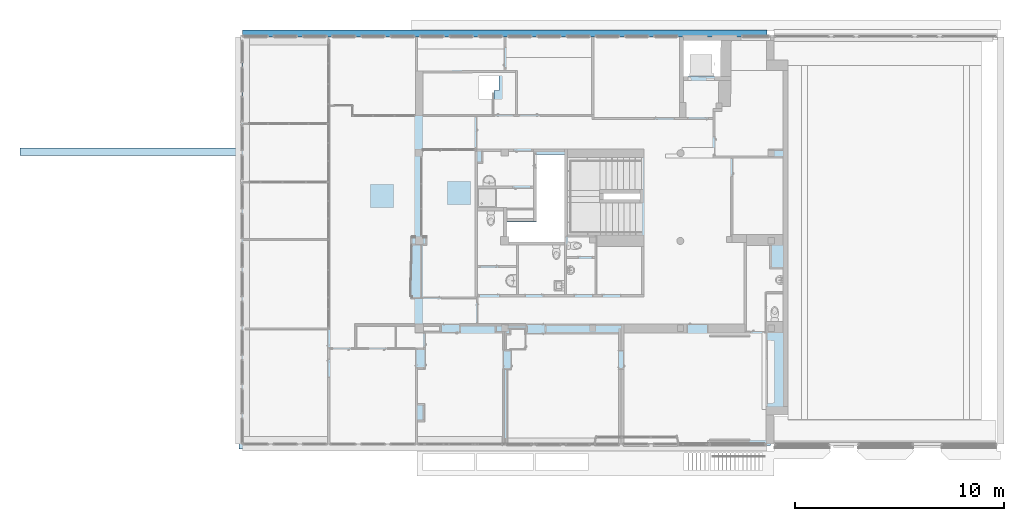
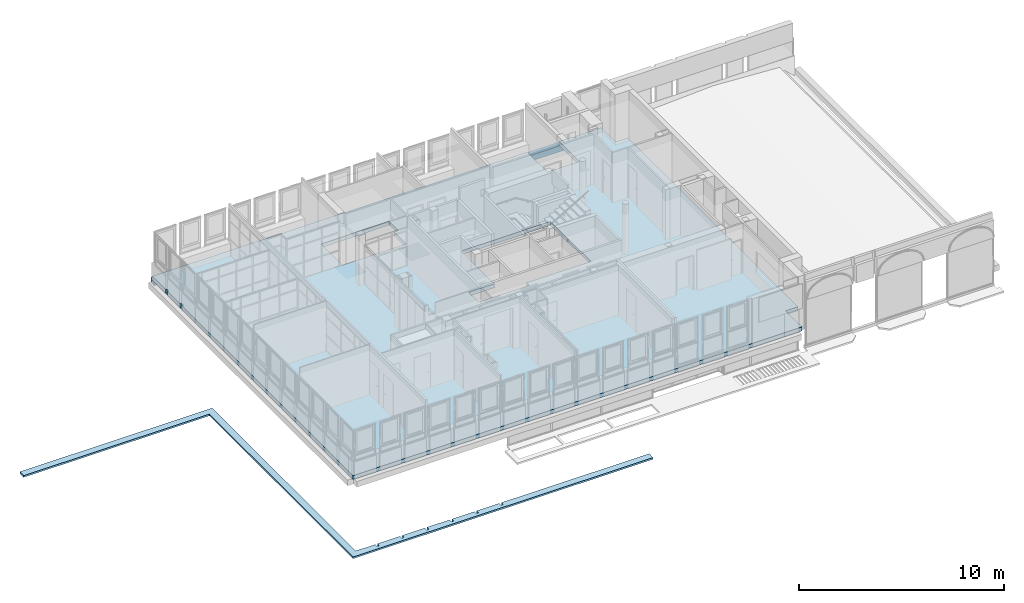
# One storey, part 52 of 97: 2 slabs, 1 beam.
"""IFC4 building model written with IfcOpenShell, lengths in metres."""

from ifc_helpers import new_model, entity, si_unit, converted_unit, derived_unit, direction, frame, origin, place, context, subcontext, project, spatial, polygons, source, transform, mapped, material, layer, layer_set, type_object, type_shapes, element, save


model = new_model("IFC4")

# Units and contexts
model_context = context("Model", 3, precision=1e-05, world=origin(), true_north=direction((6.12303176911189e-17, 1.0)))
body_context = subcontext(model_context, "Body", "Model", "MODEL_VIEW")
ifc_project = project(units=[si_unit("LENGTHUNIT", "METRE"), si_unit("AREAUNIT", "SQUARE_METRE"), si_unit("VOLUMEUNIT", "CUBIC_METRE"), converted_unit("PLANEANGLEUNIT", "DEGREE", entity("IfcRatioMeasure", 0.0174532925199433), si_unit("PLANEANGLEUNIT", "RADIAN"), dimensions=[0, 0, 0, 0, 0, 0, 0]), si_unit("MASSUNIT", "GRAM", prefix="KILO"), derived_unit("MASSDENSITYUNIT", [(si_unit("MASSUNIT", "GRAM", prefix="KILO"), 1), (si_unit("LENGTHUNIT", "METRE"), -3)]), derived_unit("MOMENTOFINERTIAUNIT", [(si_unit("LENGTHUNIT", "METRE"), 4)]), si_unit("TIMEUNIT", "SECOND"), si_unit("FREQUENCYUNIT", "HERTZ"), si_unit("THERMODYNAMICTEMPERATUREUNIT", "DEGREE_CELSIUS"), derived_unit("THERMALTRANSMITTANCEUNIT", [(si_unit("MASSUNIT", "GRAM", prefix="KILO"), 1), (si_unit("THERMODYNAMICTEMPERATUREUNIT", "KELVIN"), -1), (si_unit("TIMEUNIT", "SECOND"), -3)]), derived_unit("VOLUMETRICFLOWRATEUNIT", [(si_unit("LENGTHUNIT", "METRE"), 3), (si_unit("TIMEUNIT", "SECOND"), -1)]), si_unit("ELECTRICCURRENTUNIT", "AMPERE"), si_unit("ELECTRICVOLTAGEUNIT", "VOLT"), si_unit("POWERUNIT", "WATT"), si_unit("FORCEUNIT", "NEWTON", prefix="KILO"), si_unit("ILLUMINANCEUNIT", "LUX"), si_unit("LUMINOUSFLUXUNIT", "LUMEN"), si_unit("LUMINOUSINTENSITYUNIT", "CANDELA"), derived_unit("USERDEFINED", [(si_unit("MASSUNIT", "GRAM", prefix="KILO"), -1), (si_unit("LENGTHUNIT", "METRE"), -2), (si_unit("TIMEUNIT", "SECOND"), 3), (si_unit("LUMINOUSFLUXUNIT", "LUMEN"), 1)]), derived_unit("LINEARVELOCITYUNIT", [(si_unit("LENGTHUNIT", "METRE"), 1), (si_unit("TIMEUNIT", "SECOND"), -1)]), si_unit("PRESSUREUNIT", "PASCAL"), derived_unit("USERDEFINED", [(si_unit("LENGTHUNIT", "METRE"), -2), (si_unit("MASSUNIT", "GRAM", prefix="KILO"), 1), (si_unit("TIMEUNIT", "SECOND"), -2)]), derived_unit("LINEARFORCEUNIT", [(si_unit("MASSUNIT", "GRAM", prefix="KILO"), 1), (si_unit("LENGTHUNIT", "METRE"), 1), (si_unit("TIMEUNIT", "SECOND"), -2), (si_unit("LENGTHUNIT", "METRE"), -1)]), derived_unit("PLANARFORCEUNIT", [(si_unit("MASSUNIT", "GRAM", prefix="KILO"), 1), (si_unit("LENGTHUNIT", "METRE"), 1), (si_unit("TIMEUNIT", "SECOND"), -2), (si_unit("LENGTHUNIT", "METRE"), -2)])], contexts=[model_context])

# Site, building, storey
site_placement = place(None, origin())
site = spatial("IfcSite", under=ifc_project, at=site_placement, Name="Default", CompositionType="ELEMENT")
building_placement = place(site_placement, origin())
building = spatial("IfcBuilding", under=site, at=building_placement, Name="HOTEL CONSULAIRE BOULOGNE SUR MER", CompositionType="ELEMENT")
storey_placement = place(building_placement, frame((0.0, 0.0, 3.62152697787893)))
storey = spatial("IfcBuildingStorey", under=building, at=storey_placement, Name="Niveau 1", CompositionType="ELEMENT", Elevation=3.62152697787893)

# Beam
ifc_material_1 = material(Name="Béton - Béton coulé sur place", Category="Béton")
beam_type = type_object("IfcBeamType", Name="Poutre rectangulaire - Béton:320x340", PredefinedType="BEAM", material=ifc_material_1)
shared_shape = source(origin(), body_context, "Body", "Tessellation", [
    polygons([(2.16573425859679e-15, 2.16573425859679e-14, 5.41433564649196e-16), (4.09435601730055, 1.73258740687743e-14, 5.41433564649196e-16), (8.29, 1.51601398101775e-14, 5.41433564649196e-16), (8.29, 1.51601398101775e-14, 0.000400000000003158), (8.63, 1.51601398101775e-14, 0.000400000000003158), (8.63, 1.51601398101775e-14, 5.41433564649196e-16), (12.283, 1.29944055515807e-14, 5.41433564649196e-16), (12.283, 1.29944055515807e-14, 0.000400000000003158), (12.623, 1.08286712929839e-14, 0.000400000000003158), (12.623, 1.08286712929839e-14, 5.41433564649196e-16), (20.9229609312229, 4.33146851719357e-15, 5.41433564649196e-16), (25.1006189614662, 2.16573425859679e-15, 5.41433564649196e-16), (25.1006189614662, 2.16573425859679e-15, 0.335400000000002), (22.9001669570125, 4.33146851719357e-15, 0.335400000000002), (22.9001669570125, 4.33146851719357e-15, 0.340000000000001), (22.4715590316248, 4.33146851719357e-15, 0.340000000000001), (22.2715590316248, 4.33146851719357e-15, 0.340000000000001), (21.1029609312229, 4.33146851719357e-15, 0.340000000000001), (21.1029609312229, 4.33146851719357e-15, 0.335400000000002), (21.0715590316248, 4.33146851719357e-15, 0.335400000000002), (20.9229609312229, 4.33146851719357e-15, 0.335400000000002), (4.09435601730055, 1.73258740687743e-14, 0.335400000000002), (-2.16573425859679e-15, 2.16573425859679e-14, 0.335400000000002), (2.16573425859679e-15, 0.32000000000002, 5.41433564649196e-16), (8.29, 0.320000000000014, 5.41433564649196e-16), (2.16573425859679e-15, 0.32000000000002, 0.340000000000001), (25.1006189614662, 0.320000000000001, 0.340000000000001), (25.1006189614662, 0.320000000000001, 1.08286712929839e-15), (12.623, 0.32000000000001, 1.08286712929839e-15), (12.623, 0.32000000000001, 0.000400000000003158), (12.283, 0.320000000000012, 0.000400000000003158), (12.283, 0.320000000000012, 1.08286712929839e-15), (8.63, 0.320000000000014, 1.08286712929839e-15), (8.63, 0.320000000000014, 0.000400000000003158), (8.29, 0.320000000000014, 0.000400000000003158), (-2.16573425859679e-15, 0.0730000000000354, 0.340000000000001), (0.350880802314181, 0.0730000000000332, 0.340000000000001), (1.25301611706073, 0.0730000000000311, 0.340000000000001), (1.45210526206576, 0.0730000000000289, 0.340000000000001), (2.65301611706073, 0.0730000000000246, 0.340000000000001), (2.85210526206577, 0.0730000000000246, 0.340000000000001), (4.09435601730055, 0.0730000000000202, 0.340000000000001), (6.85301611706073, 0.0730000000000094, 0.340000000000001), (7.05210526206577, 0.0730000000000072, 0.340000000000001), (8.27466291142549, 0.0730000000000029, 0.340000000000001), (8.47375205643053, 0.0730000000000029, 0.340000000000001), (9.67466291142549, 0.0729999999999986, 0.340000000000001), (9.87375205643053, 0.0729999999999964, 0.340000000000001), (11.0746629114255, 0.0729999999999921, 0.340000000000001), (11.2737520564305, 0.0729999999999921, 0.340000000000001), (12.4746629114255, 0.0729999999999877, 0.340000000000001), (12.6737520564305, 0.0729999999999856, 0.340000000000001), (13.8720144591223, 0.0729999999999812, 0.340000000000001), (14.0711036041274, 0.0729999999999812, 0.340000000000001), (15.2720144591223, 0.0729999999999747, 0.340000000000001), (15.4711036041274, 0.0729999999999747, 0.340000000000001), (16.6720144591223, 0.0729999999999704, 0.340000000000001), (16.8711036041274, 0.0729999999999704, 0.340000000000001), (18.0720144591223, 0.0729999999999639, 0.340000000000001), (18.2711036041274, 0.0729999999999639, 0.340000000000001), (19.4720144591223, 0.0729999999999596, 0.340000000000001), (19.6711036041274, 0.0729999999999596, 0.340000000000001), (20.8720144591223, 0.0729999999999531, 0.340000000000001), (21.0715590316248, 0.0729999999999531, 0.340000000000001), (21.1029609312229, 0.0729999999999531, 0.340000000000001), (22.9008694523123, 0.0729999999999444, 0.340000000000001), (23.6720144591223, 0.0729999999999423, 0.340000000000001), (23.8711036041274, 0.0729999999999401, 0.340000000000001), (25.1006189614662, 0.0729999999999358, 0.340000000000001), (25.1006189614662, 0.084308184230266, 0.340000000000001), (0.0, 0.0730000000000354, 0.335400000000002), (25.1006189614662, 0.0729999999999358, 0.335400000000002), (22.9008694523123, 0.0729999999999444, 0.335400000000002), (21.1029609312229, 0.0729999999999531, 0.335400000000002)], [[[14, 15, 16, 17, 18, 19, 20, 21, 22, 23, 1, 2, 3, 4, 5, 6, 7, 8, 9, 10, 11, 12, 13]], [[48, 47, 46, 45, 44, 43, 42, 41, 40, 39, 38, 37, 36, 71, 74, 65, 64, 63, 62, 61, 60, 59, 58, 57, 56, 55, 54, 53, 52, 51, 50, 49]], [[68, 67, 66, 73, 72, 69]], [[24, 25, 3, 2, 1]], [[29, 28, 12, 11, 10]], [[33, 32, 7, 6]], [[35, 34, 5, 4]], [[8, 31, 30, 9]], [[30, 31, 32, 33, 34, 35, 25, 24, 26, 27, 28, 29]], [[55, 56, 57, 58, 59, 60, 61, 62, 63, 64, 65, 18, 17, 16, 15, 66, 67, 68, 69, 70, 27, 26, 36, 37, 38, 39, 40, 41, 42, 43, 44, 45, 46, 47, 48, 49, 50, 51, 52, 53, 54]], [[13, 72, 73, 14]], [[22, 21, 20, 19, 74, 71, 23]], [[36, 26, 24, 1, 23, 71]], [[6, 5, 34, 33]], [[29, 10, 9, 30]], [[65, 74, 19, 18]], [[3, 25, 35, 4]], [[7, 32, 31, 8]], [[72, 13, 12, 28, 27, 70, 69]], [[66, 15, 14, 73]]], closed=True),
])
type_shapes(beam_type, [shared_shape])
beam_placement = place(storey_placement, frame((-13.7939806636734, -10.0746323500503, -0.570400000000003)))
element("IfcBeam", 1, at=beam_placement, inside=storey, type_object=beam_type, material=ifc_material_1, Name="Poutre rectangulaire - Béton:320x340", ObjectType="Poutre rectangulaire - Béton:320x340", PredefinedType="BEAM", context=body_context, shape_type="MappedRepresentation", body=[
    mapped(shared_shape, transform((0.0, 0.0, 0.0), scale=1.0)),
])

# Slabs
ifc_material_2 = material(Name="moquette bleu")
ifc_layer_1 = layer(ifc_material_2, 0.015, Name="moquette bleu")
ifc_material_3 = material(Name="Carrelage beige")
ifc_layer_2 = layer(ifc_material_3, 0.02, Name="Carrelage beige")
ifc_layer_3 = layer(ifc_material_1, 0.2, Name="Béton - Béton coulé sur place", Category="Béton")
ifc_layer_set = layer_set([ifc_layer_1, ifc_layer_2, ifc_layer_3], Name="Sol:Dalle béton 200 finition carrelage 20 mm + moquette 15")
slab_type_1 = type_object("IfcSlabType", Name="Sol:Dalle béton 200 finition carrelage 20 mm + moquette 15", PredefinedType="FLOOR", material=ifc_layer_set)
slab_1_placement = place(storey_placement, origin())
element("IfcSlab", 2, at=slab_1_placement, inside=storey, type_object=slab_type_1, material=ifc_layer_set, Name="Sol:Dalle béton 200 finition carrelage 20 mm + moquette 15", ObjectType="Sol:Dalle béton 200 finition carrelage 20 mm + moquette 15", PredefinedType="FLOOR", context=body_context, shape_type="Tessellation", body=[
    polygons([(11.4766382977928, -10.0016323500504, -0.235), (11.4766382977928, -10.0846323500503, -0.235), (11.4766382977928, -10.24032416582, -0.235), (11.4766382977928, -11.1735010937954, -0.235), (11.4766382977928, -11.4091940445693, -0.235), (12.1764778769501, -11.4091940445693, -0.235), (12.1764778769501, -11.6735010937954, -0.235), (12.1764778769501, -27.7610483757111, -0.235), (12.1764778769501, -28.0483514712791, -0.235), (11.4766382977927, -28.0483514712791, -0.235), (11.4766382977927, -28.1610483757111, -0.235), (11.4766382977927, -29.5540671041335, -0.235), (11.4766382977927, -29.6351047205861, -0.235), (-13.7293496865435, -29.6351047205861, -0.235), (-13.8039806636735, -29.6351047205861, -0.235), (-13.8650998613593, -29.6351047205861, -0.235), (-13.8650998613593, -29.5540671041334, -0.235), (-13.8650998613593, -29.2001047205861, -0.235), (-13.8650998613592, -10.4553241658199, -0.235), (-13.8650998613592, -10.0846323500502, -0.235), (-13.8650998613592, -10.0746323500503, -0.235), (-13.8650998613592, -10.0016323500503, -0.235), (-13.7939806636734, -10.0016323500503, -0.235), (7.30898026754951, -10.0016323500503, -0.235), (7.30898026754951, -10.0746323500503, -0.235), (7.30898026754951, -10.24032416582, -0.235), (7.3089802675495, -11.9707913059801, -0.235), (9.08793913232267, -11.9707913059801, -0.235), (9.10459180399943, -10.24032416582, -0.235), (9.10618629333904, -10.0746323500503, -0.235), (9.10688878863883, -10.0016323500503, -0.235), (11.3066382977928, -10.0016323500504, -0.235), (5.33673984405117, -17.3888875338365, -0.235), (5.31372773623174, -17.3888875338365, -0.235), (5.31372773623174, -15.8552420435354, -0.235), (5.31372773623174, -15.7002420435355, -0.235), (1.75747131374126, -15.7002420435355, -0.235), (1.45747131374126, -15.7002420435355, -0.235), (0.302268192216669, -15.7002420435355, -0.235), (0.291635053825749, -15.7002420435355, -0.235), (0.291635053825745, -17.8875602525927, -0.235), (0.291635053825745, -18.0025602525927, -0.235), (0.291635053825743, -18.9327095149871, -0.235), (0.172268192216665, -18.9327095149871, -0.235), (-1.15234448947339, -18.9327095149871, -0.235), (-1.15234448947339, -19.6199143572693, -0.235), (-1.15234448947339, -19.8798339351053, -0.235), (1.45747131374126, -19.8798339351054, -0.235), (1.67747131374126, -19.8798339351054, -0.235), (1.69247131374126, -19.8798339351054, -0.235), (1.69247131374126, -19.6349143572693, -0.235), (1.75747131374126, -19.6349143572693, -0.235), (5.05288639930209, -19.6349143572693, -0.235), (5.33673984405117, -19.6349143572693, -0.235), (5.33673984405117, -19.5719143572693, -0.235), (5.36673984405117, -19.5719143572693, -0.235), (5.36673984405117, -18.0248875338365, -0.235), (5.33673984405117, -18.0248875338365, -0.235), (-5.33477317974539, -13.8309141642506, -0.235), (-5.1597731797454, -13.8309141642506, -0.235), (-1.74279961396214, -13.8309141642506, -0.235), (-1.74279961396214, -13.7909141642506, -0.235), (-1.74279961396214, -12.6319533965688, -0.235), (-1.47384073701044, -12.6296783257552, -0.235), (-1.47384073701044, -11.7784295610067, -0.235), (-1.50384073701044, -11.7786825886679, -0.235), (-1.50384073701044, -11.7286808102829, -0.235), (-5.15977317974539, -11.7595158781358, -0.235), (-5.33477317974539, -11.7609918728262, -0.235), (11.4766382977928, -11.4091940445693, 0.0), (11.4766382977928, -11.1735010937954, 0.0), (11.4766382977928, -10.24032416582, 0.0), (11.4766382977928, -10.0846323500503, 0.0), (11.4766382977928, -10.0016323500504, 0.0), (11.3066382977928, -10.0016323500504, 0.0), (10.077122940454, -10.0016323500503, 0.0), (10.0775783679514, -10.0046685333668, 0.0), (10.0775783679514, -10.0856685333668, 0.0), (9.87757836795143, -10.0856685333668, 0.0), (9.87757836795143, -10.0046685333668, 0.0), (9.8780337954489, -10.0016323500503, 0.0), (9.10688878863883, -10.0016323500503, 0.0), (9.10459180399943, -10.24032416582, 0.0), (9.08793913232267, -11.9707913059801, 0.0), (8.79498706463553, -11.9707913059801, 0.0), (7.53998026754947, -11.9707913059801, 0.0), (7.3089802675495, -11.9707913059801, 0.0), (7.30898026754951, -10.24032416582, 0.0), (7.30898026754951, -10.0856685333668, 0.0), (7.30898026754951, -10.0016323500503, 0.0), (7.27757836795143, -10.0016323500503, 0.0), (7.0780337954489, -10.0016323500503, 0.0), (5.87712294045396, -10.0016323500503, 0.0), (5.67803379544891, -10.0016323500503, 0.0), (4.47712294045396, -10.0016323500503, 0.0), (4.27803379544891, -10.0016323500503, 0.0), (3.07712294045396, -10.0016323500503, 0.0), (2.87803379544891, -10.0016323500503, 0.0), (1.67712294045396, -10.0016323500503, 0.0), (1.47803379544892, -10.0016323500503, 0.0), (0.277122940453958, -10.0016323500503, 0.0), (0.0780337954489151, -10.0016323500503, 0.0), (-1.12022860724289, -10.0016323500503, 0.0), (-1.31931775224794, -10.0016323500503, 0.0), (-2.52022860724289, -10.0016323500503, 0.0), (-2.71931775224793, -10.0016323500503, 0.0), (-3.92022860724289, -10.0016323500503, 0.0), (-4.11931775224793, -10.0016323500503, 0.0), (-5.32022860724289, -10.0016323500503, 0.0), (-5.51931775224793, -10.0016323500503, 0.0), (-6.74187540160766, -10.0016323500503, 0.0), (-6.94096454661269, -10.0016323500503, 0.0), (-9.69962464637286, -10.0016323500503, 0.0), (-10.9418754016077, -10.0016323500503, 0.0), (-11.1409645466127, -10.0016323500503, 0.0), (-12.3418754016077, -10.0016323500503, 0.0), (-12.5409645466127, -10.0016323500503, 0.0), (-13.4430998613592, -10.0016323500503, 0.0), (-13.8650998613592, -10.0016323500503, 0.0), (-13.8650998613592, -11.3114499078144, 0.0), (-13.7881025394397, -11.3114499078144, 0.0), (-13.7881025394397, -11.5114499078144, 0.0), (-13.8650998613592, -11.5114499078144, 0.0), (-13.8650998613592, -12.7114499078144, 0.0), (-13.7881025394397, -12.7114499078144, 0.0), (-13.7881025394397, -12.9114499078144, 0.0), (-13.8650998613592, -12.9114499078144, 0.0), (-13.8650998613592, -14.1974499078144, 0.0), (-13.8650998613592, -14.2474499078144, 0.0), (-13.8650998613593, -15.5114499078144, 0.0), (-13.8650998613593, -15.7114499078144, 0.0), (-13.8650998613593, -17.0222596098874, 0.0), (-13.8650998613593, -17.0518458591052, 0.0), (-13.8650998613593, -18.3114499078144, 0.0), (-13.8650998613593, -18.5114499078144, 0.0), (-13.8650998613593, -19.7114499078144, 0.0), (-13.8650998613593, -19.9114499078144, 0.0), (-13.8650998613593, -21.1114499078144, 0.0), (-13.8650998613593, -21.3114499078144, 0.0), (-13.8650998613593, -22.5114499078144, 0.0), (-13.8650998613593, -22.7114499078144, 0.0), (-13.8650998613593, -23.9114499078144, 0.0), (-13.8650998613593, -24.1114499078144, 0.0), (-13.8650998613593, -25.3114499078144, 0.0), (-13.8650998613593, -25.5114499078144, 0.0), (-13.8650998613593, -26.7114499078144, 0.0), (-13.8650998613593, -26.9114499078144, 0.0), (-13.8650998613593, -28.1114499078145, 0.0), (-13.8650998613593, -28.3114499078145, 0.0), (-13.8650998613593, -29.2001047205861, 0.0), (-13.8650998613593, -29.5540671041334, 0.0), (-13.8650998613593, -29.6351047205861, 0.0), (-13.7939806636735, -29.6351047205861, 0.0), (-12.5414199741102, -29.6351047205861, 0.0), (-12.3414199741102, -29.6351047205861, 0.0), (-11.1414199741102, -29.6351047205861, 0.0), (-10.9414199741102, -29.6351047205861, 0.0), (-9.7414199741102, -29.6351047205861, 0.0), (-9.5414199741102, -29.6351047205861, 0.0), (-8.3414199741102, -29.6351047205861, 0.0), (-8.1414199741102, -29.6351047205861, 0.0), (-6.9414199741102, -29.6351047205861, 0.0), (-6.74141997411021, -29.6351047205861, 0.0), (-5.54141997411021, -29.6351047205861, 0.0), (-5.34141997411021, -29.6351047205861, 0.0), (-4.14141997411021, -29.6351047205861, 0.0), (-3.94141997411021, -29.6351047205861, 0.0), (-2.74141997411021, -29.6351047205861, 0.0), (-2.54141997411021, -29.6351047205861, 0.0), (-1.37110579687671, -29.6351047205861, 0.0), (-1.3414199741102, -29.6351047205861, 0.0), (-1.14141997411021, -29.6351047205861, 0.0), (0.0585800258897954, -29.6351047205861, 0.0), (0.258580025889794, -29.6351047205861, 0.0), (1.45858002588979, -29.6351047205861, 0.0), (1.65858002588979, -29.6351047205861, 0.0), (2.8585800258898, -29.6351047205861, 0.0), (3.05858002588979, -29.6351047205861, 0.0), (4.25858002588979, -29.6351047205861, 0.0), (4.4585746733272, -29.6351047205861, 0.0), (5.65858002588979, -29.6351047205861, 0.0), (5.85858002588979, -29.6351047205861, 0.0), (7.05858002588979, -29.6351047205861, 0.0), (7.25858002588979, -29.6351047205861, 0.0), (8.45858002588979, -29.6351047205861, 0.0), (8.65858002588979, -29.6351047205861, 0.0), (10.4846382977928, -29.6351047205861, 0.0), (11.3066382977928, -29.6351047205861, 0.0), (11.4766382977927, -29.6351047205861, 0.0), (11.4766382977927, -29.5540671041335, 0.0), (11.4766382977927, -28.1610483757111, 0.0), (11.4766382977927, -28.0483514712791, 0.0), (12.1764778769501, -28.0483514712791, 0.0), (12.1764778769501, -27.7610483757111, 0.0), (12.1764778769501, -11.6735010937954, 0.0), (12.1764778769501, -11.4091940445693, 0.0), (-1.74279961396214, -13.8309141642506, 0.0), (-5.1597731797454, -13.8309141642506, 0.0), (-5.33477317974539, -13.8309141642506, 0.0), (-5.33477317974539, -11.7609918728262, 0.0), (-5.15977317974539, -11.7595158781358, 0.0), (-1.50384073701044, -11.7286808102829, 0.0), (-1.50384073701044, -11.7786825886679, 0.0), (-1.50384073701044, -12.6299320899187, 0.0), (-1.74279961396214, -12.6319533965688, 0.0), (-1.74279961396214, -13.7909141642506, 0.0), (5.33673984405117, -17.3888875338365, 0.0), (5.33673984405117, -18.0248875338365, 0.0), (5.33673984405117, -19.5649143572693, 0.0), (5.33673984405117, -19.6349143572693, 0.0), (3.15781360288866, -19.6349143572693, 0.0), (3.08781360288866, -19.6349143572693, 0.0), (1.75747131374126, -19.6349143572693, 0.0), (1.69247131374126, -19.6349143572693, 0.0), (1.69247131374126, -19.6449143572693, 0.0), (1.69247131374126, -19.8798339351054, 0.0), (1.62747131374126, -19.8798339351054, 0.0), (-1.02882322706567, -19.8798339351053, 0.0), (-1.15234448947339, -19.8798339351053, 0.0), (-1.15234448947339, -19.6298339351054, 0.0), (-1.15234448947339, -18.9327095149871, 0.0), (-1.13536494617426, -18.9327095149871, 0.0), (0.291635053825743, -18.9327095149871, 0.0), (0.291635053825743, -18.9046212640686, 0.0), (0.291635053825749, -15.7002420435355, 0.0), (1.62747131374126, -15.7002420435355, 0.0), (1.75747131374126, -15.7002420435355, 0.0), (5.31372773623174, -15.7002420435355, 0.0), (5.31372773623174, -15.8552420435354, 0.0), (5.31372773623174, -17.3888875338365, 0.0), (-13.8650998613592, -12.9114499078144, -0.230422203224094), (-13.8650998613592, -12.7114499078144, -0.230422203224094), (-13.8650998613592, -11.5114499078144, -0.230422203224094), (-13.8650998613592, -11.3114499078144, -0.230422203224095), (-13.8650998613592, -10.0016323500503, -0.230422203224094), (7.30898026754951, -10.0016323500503, -0.230400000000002), (5.33673984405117, -17.3888875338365, -0.200000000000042), (5.33673984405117, -18.0248875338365, -0.200000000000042), (5.33673984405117, -18.0248875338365, -0.193418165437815), (5.33673984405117, -19.5719143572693, -0.193418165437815), (5.33673984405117, -19.6349143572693, -0.200000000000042), (5.31372773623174, -15.7002420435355, -0.200000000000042), (0.291635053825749, -15.7002420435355, -0.200000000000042), (1.69247131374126, -19.8798339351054, -0.200000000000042), (1.69247131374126, -19.8798339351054, -0.0968216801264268), (1.69247131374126, -19.8798339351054, -0.0350000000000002), (1.69247131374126, -19.6349143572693, -0.0968216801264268), (1.69247131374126, -19.6349143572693, -0.200000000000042), (-1.50384073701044, -11.7286808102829, -0.200000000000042), (5.36673984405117, -18.0248875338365, -0.193418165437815), (5.36673984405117, -19.5719143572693, -0.193418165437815), (-1.50384073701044, -12.6299320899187, -0.0100000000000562), (-1.47384073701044, -12.6296783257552, -0.0100000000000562), (-1.50384073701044, -11.7786825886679, -0.200000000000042), (-1.50384073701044, -11.7786825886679, -0.0100000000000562), (0.291635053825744, -18.9327095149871, -0.200000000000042), (-1.15234448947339, -19.8798339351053, -0.0350000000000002), (-13.7881025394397, -12.9114499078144, -0.230422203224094), (-13.7881025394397, -12.7114499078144, -0.230422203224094), (10.0775783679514, -10.0856685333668, -0.230400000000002), (10.0775783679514, -10.0046685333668, -0.230400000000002), (10.077122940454, -10.0016323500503, -0.230400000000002), (9.8780337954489, -10.0016323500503, -0.230400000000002), (9.87757836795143, -10.0046685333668, -0.230400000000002), (9.87757836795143, -10.0856685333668, -0.230400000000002), (-1.15234448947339, -18.9327095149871, -0.0350000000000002), (9.10688878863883, -10.0016323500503, -0.230400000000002), (-13.7881025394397, -11.5114499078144, -0.230422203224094), (-13.7881025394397, -11.3114499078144, -0.230422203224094), (-1.47384073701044, -11.7784295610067, -0.0100000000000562)], [[[32, 1, 2, 3, 4, 5, 6, 7, 8, 9, 10, 11, 12, 13, 14, 15, 16, 17, 18, 19, 20, 21, 22, 23, 24, 25, 26, 27, 28, 29, 30, 31], [33, 34, 35, 36, 37, 38, 39, 40, 41, 42, 43, 44, 45, 46, 47, 48, 49, 50, 51, 52, 53, 54, 55, 56, 57, 58], [59, 60, 61, 62, 63, 64, 65, 66, 67, 68, 69]], [[239, 250, 251, 240]], [[255, 270, 253, 252]], [[187, 188, 189, 190, 191, 192, 193, 194, 195, 196, 70, 71, 72, 73, 74, 75, 76, 77, 78, 79, 80, 81, 82, 83, 84, 85, 86, 87, 88, 89, 90, 91, 92, 93, 94, 95, 96, 97, 98, 99, 100, 101, 102, 103, 104, 105, 106, 107, 108, 109, 110, 111, 112, 113, 114, 115, 116, 117, 118, 119, 120, 121, 122, 123, 124, 125, 126, 127, 128, 129, 130, 131, 132, 133, 134, 135, 136, 137, 138, 139, 140, 141, 142, 143, 144, 145, 146, 147, 148, 149, 150, 151, 152, 153, 154, 155, 156, 157, 158, 159, 160, 161, 162, 163, 164, 165, 166, 167, 168, 169, 170, 171, 172, 173, 174, 175, 176, 177, 178, 179, 180, 181, 182, 183, 184, 185, 186], [210, 211, 212, 213, 214, 215, 216, 217, 218, 219, 220, 221, 222, 223, 224, 225, 226, 227, 228, 229, 230, 207, 208, 209], [204, 205, 206, 197, 198, 199, 200, 201, 202, 203]], [[232, 231, 258, 259]], [[260, 261, 262, 263, 264, 265]], [[234, 233, 268, 269]], [[3, 2, 1, 74, 73, 72, 71, 70, 5, 4]], [[7, 6, 196, 195, 194, 193, 9, 8]], [[59, 69, 200, 199]], [[11, 10, 192, 191, 190, 189, 13, 12]], [[41, 40, 243, 225, 224, 223, 256, 43, 42]], [[264, 80, 79, 265]], [[45, 266, 221, 220, 219, 257, 47, 46]], [[26, 25, 24, 236, 90, 89, 88, 87, 27]], [[6, 5, 70, 196]], [[22, 235, 119, 118, 117, 116, 115, 114, 113, 112, 111, 110, 109, 108, 107, 106, 105, 104, 103, 102, 101, 100, 99, 98, 97, 96, 95, 94, 93, 92, 91, 90, 236, 24, 23]], [[51, 248, 247, 214, 213, 212, 211, 210, 241, 54, 53, 52]], [[60, 59, 199, 198, 197, 61]], [[56, 55, 240, 251]], [[245, 244, 50, 49, 48, 47, 257, 219, 218, 217, 216, 246]], [[258, 231, 127, 126]], [[265, 79, 78, 260]], [[28, 27, 87, 86, 85, 84]], [[31, 267, 82, 81, 263, 262, 76, 75, 74, 1, 32]], [[233, 123, 122, 268]], [[13, 189, 188, 187, 186, 185, 184, 183, 182, 181, 180, 179, 178, 177, 176, 175, 174, 173, 172, 171, 170, 169, 168, 167, 166, 165, 164, 163, 162, 161, 160, 159, 158, 157, 156, 155, 154, 153, 152, 16, 15, 14]], [[34, 33, 237, 207, 230]], [[37, 36, 242, 228, 227, 226, 225, 243, 40, 39, 38]], [[10, 9, 193, 192]], [[238, 58, 57, 250, 239]], [[232, 259, 125, 124]], [[43, 256, 223, 222, 221, 266, 45, 44]], [[234, 269, 121, 120]], [[141, 140, 139, 138, 137, 136, 135, 134, 133, 132, 131, 130, 129, 128, 127, 231, 232, 124, 123, 233, 234, 120, 119, 235, 22, 21, 20, 19, 18, 17, 16, 152, 151, 150, 149, 148, 147, 146, 145, 144, 143, 142]], [[54, 241, 210, 209, 208, 207, 237, 33, 58, 238, 239, 240, 55]], [[35, 34, 230, 229, 228, 242, 36]], [[50, 244, 245, 246, 216, 215, 214, 247, 248, 51]], [[62, 61, 197, 206, 205, 63]], [[56, 251, 250, 57]], [[66, 254, 255, 252, 204, 203, 202, 249, 67]], [[258, 126, 125, 259]], [[260, 78, 77, 261]], [[269, 268, 122, 121]], [[64, 253, 270, 65]], [[68, 67, 249, 202, 201, 200, 69]], [[254, 66, 65, 270, 255]], [[64, 63, 205, 204, 252, 253]], [[264, 263, 81, 80]], [[261, 77, 76, 262]], [[29, 28, 84, 83, 82, 267, 31, 30]]], closed=True),
])
ifc_material_4 = material(Name="Maçonnerie - Béton coulé sur place", Category="Béton")
slab_type_2 = type_object("IfcSlabType", Name="sol 3:sol 3", PredefinedType="FLOOR", material=ifc_material_4)
slab_2_placement = place(storey_placement, frame((-24.4392313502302, -29.7975737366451, -4.82111510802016)))
element("IfcSlab", 3, at=slab_2_placement, inside=storey, type_object=slab_type_2, Name="sol 3:sol 3", ObjectType="sol 3:sol 3", PredefinedType="FLOOR", context=body_context, shape_type="Tessellation", body=[
    polygons([(4.33146851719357e-15, 14.4101337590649, 0.119), (4.33146851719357e-15, 14.4101337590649, 0.0), (4.33146851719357e-15, 14.1601337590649, 0.0), (4.33146851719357e-15, 14.0506271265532, 0.0), (4.33146851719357e-15, 14.0506271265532, 0.10015905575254), (4.33146851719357e-15, 14.1601337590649, 0.105898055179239), (10.8438816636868, 14.4101337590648, 0.0), (10.8438816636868, 14.4101337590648, 0.119), (10.8438816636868, 0.359506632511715, 0.119), (10.8438816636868, 0.359506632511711, 0.0), (10.4843750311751, 14.0506271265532, 0.0), (10.4843750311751, 6.93034962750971e-14, 0.0), (10.4843750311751, 6.93034962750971e-14, 0.10015905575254), (10.4843750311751, 14.0506271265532, 0.10015905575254), (27.4104081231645, 0.0, 0.0), (27.4104081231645, 0.359506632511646, 0.0), (27.4104081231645, 0.359506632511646, 0.119), (27.4104081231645, 0.0, 0.10015905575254), (11.93666137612, 0.359506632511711, 0.119), (11.93666137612, 0.359506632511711, 0.0), (19.05896137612, 0.359506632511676, 0.118999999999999), (19.05896137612, 0.184283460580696, 0.109816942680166), (18.93666137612, 0.184283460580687, 0.109816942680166), (18.93666137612, 0.359506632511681, 0.119), (17.65896137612, 0.359506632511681, 0.118999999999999), (17.65896137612, 0.184283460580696, 0.109816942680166), (17.53666137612, 0.184283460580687, 0.109816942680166), (17.53666137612, 0.359506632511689, 0.119), (16.25896137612, 0.359506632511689, 0.118999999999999), (16.25896137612, 0.184283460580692, 0.109816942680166), (16.13666137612, 0.184283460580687, 0.109816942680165), (16.13666137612, 0.359506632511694, 0.119), (14.85896137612, 0.359506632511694, 0.118999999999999), (14.85896137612, 0.1842834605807, 0.109816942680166), (14.73666137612, 0.184283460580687, 0.109816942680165), (14.73666137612, 0.359506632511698, 0.119), (13.45896137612, 0.359506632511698, 0.118999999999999), (13.45896137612, 0.184283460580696, 0.109816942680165), (13.33666137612, 0.184283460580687, 0.109816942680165), (13.33666137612, 0.359506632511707, 0.119), (12.05896137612, 0.359506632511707, 0.118999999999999), (12.05896137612, 0.184283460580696, 0.109816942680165), (11.93666137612, 0.184283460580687, 0.109816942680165), (10.5938816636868, 14.4101337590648, 0.0), (10.5938816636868, 14.4101337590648, 0.119), (11.93666137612, 0.184283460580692, 0.0), (12.05896137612, 0.184283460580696, 0.0), (12.05896137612, 0.359506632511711, 0.0), (13.33666137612, 0.359506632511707, 0.0), (13.33666137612, 0.184283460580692, 0.0), (13.45896137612, 0.184283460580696, 0.0), (13.45896137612, 0.359506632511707, 0.0), (14.73666137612, 0.359506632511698, 0.0), (14.73666137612, 0.184283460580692, 0.0), (14.85896137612, 0.184283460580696, 0.0), (14.85896137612, 0.359506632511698, 0.0), (16.13666137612, 0.359506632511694, 0.0), (16.13666137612, 0.184283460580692, 0.0), (16.25896137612, 0.184283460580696, 0.0), (16.25896137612, 0.359506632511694, 0.0), (17.53666137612, 0.359506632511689, 0.0), (17.53666137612, 0.184283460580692, 0.0), (17.65896137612, 0.184283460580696, 0.0), (17.65896137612, 0.359506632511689, 0.0), (18.93666137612, 0.359506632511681, 0.0), (18.93666137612, 0.184283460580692, 0.0), (19.05896137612, 0.184283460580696, 0.0), (19.05896137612, 0.359506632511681, 0.0)], [[[6, 1, 2, 3, 4, 5]], [[14, 11, 12, 13]], [[52, 51, 38, 37]], [[68, 67, 22, 21]], [[64, 63, 26, 25]], [[60, 59, 30, 29]], [[56, 55, 34, 33]], [[48, 47, 42, 41]], [[7, 8, 9, 10]], [[15, 16, 17, 18]], [[49, 40, 39, 50]], [[65, 24, 23, 66]], [[61, 28, 27, 62]], [[57, 32, 31, 58]], [[53, 36, 35, 54]], [[20, 19, 43, 46]], [[8, 14, 13, 9]], [[10, 9, 19, 20]], [[44, 2, 1, 45, 8, 7]], [[51, 50, 39, 38]], [[52, 37, 36, 53]], [[66, 23, 22, 67]], [[68, 21, 17, 16]], [[63, 62, 27, 26]], [[64, 25, 24, 65]], [[59, 58, 31, 30]], [[60, 29, 28, 61]], [[55, 54, 35, 34]], [[56, 33, 32, 57]], [[47, 46, 43, 42]], [[48, 41, 40, 49]], [[13, 12, 15, 18]], [[5, 4, 11, 14]], [[13, 18, 17, 21, 22, 23, 24, 25, 26, 27, 28, 29, 30, 31, 32, 33, 34, 35, 36, 37, 38, 39, 40, 41, 42, 43, 19, 9]], [[6, 5, 14, 8, 45, 1]], [[3, 2, 44, 7, 10, 20, 46, 47, 48, 49, 50, 51, 52, 53, 54, 55, 56, 57, 58, 59, 60, 61, 62, 63, 64, 65, 66, 67, 68, 16, 15, 12, 11, 4]]], closed=True),
])

save(model, "model.ifc")
